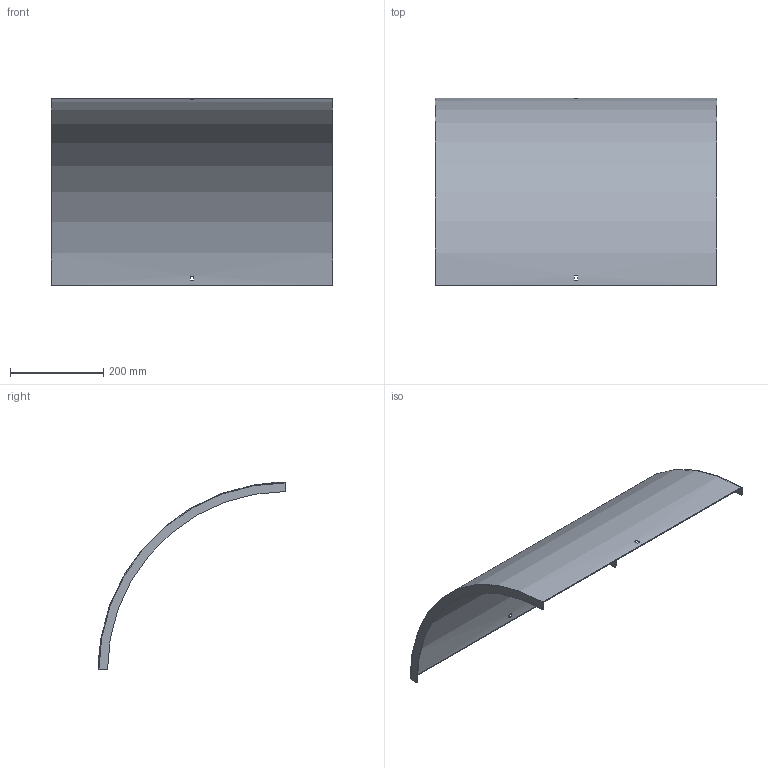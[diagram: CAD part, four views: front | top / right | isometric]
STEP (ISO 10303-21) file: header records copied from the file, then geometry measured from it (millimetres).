
FILE_DESCRIPTION (( 'STEP AP214' ), '1' );
FILE_NAME ('B2_33N3D600.step', '2025-02-21T10:47:12', ( '' ), ( '' ), 'SwSTEP 2.0', 'SolidWorks 2023', '' );
FILE_SCHEMA (( 'AUTOMOTIVE_DESIGN' ));
Length unit declared in the file: millimetre
Products named in the file (1): B2_33N3D600
Bounding box: 603 x 401.5 x 401.5 mm (x, y, z)
Volume: 603269.3 mm3; surface area: 808173.5 mm2
Topology: 1 solids, 1 shells, 18 faces, 48 edges, 32 vertices
Faces by surface type: plane 14, cylinder 4
Entity records: 599 total; most frequent: DIRECTION 102, CARTESIAN_POINT 99, ORIENTED_EDGE 96, EDGE_CURVE 48, AXIS2_PLACEMENT_3D 35, VECTOR 32, VERTEX_POINT 32, LINE 32
